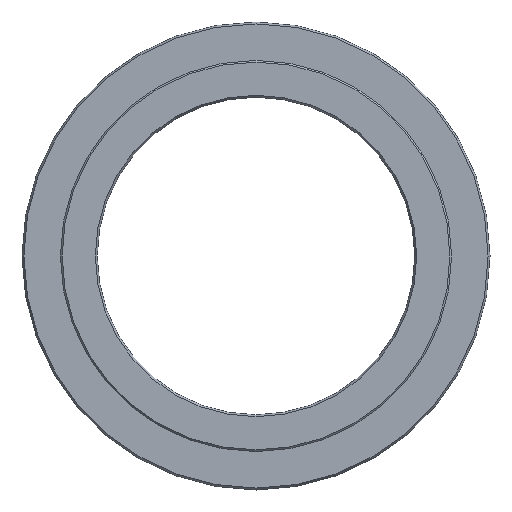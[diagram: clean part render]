
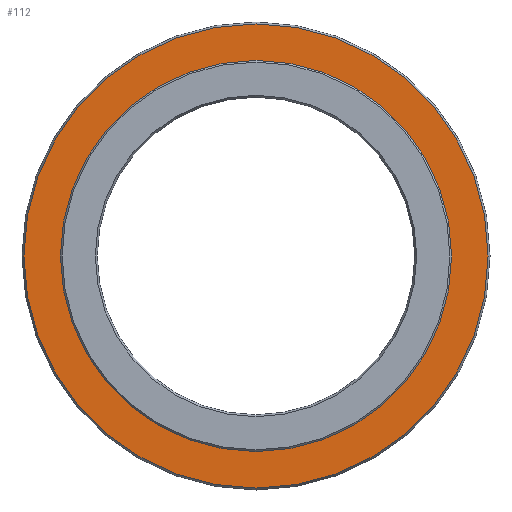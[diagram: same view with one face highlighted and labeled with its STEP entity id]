
A CAD part, left-side view. The second image highlights one B-rep face of the part: STEP entity #112.
In plain terms, the highlighted planar face has unit normal (-1, 0, 0).
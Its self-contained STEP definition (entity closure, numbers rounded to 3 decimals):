
#107=PLANE('',#279);
#112=ADVANCED_FACE('',(#131,#132),#107,.T.);
#131=FACE_BOUND('',#163,.T.);
#132=FACE_BOUND('',#164,.T.);
#163=EDGE_LOOP('',(#195));
#164=EDGE_LOOP('',(#196));
#195=ORIENTED_EDGE('',*,*,#243,.T.);
#196=ORIENTED_EDGE('',*,*,#244,.T.);
#227=VERTEX_POINT('',#379);
#228=VERTEX_POINT('',#381);
#243=EDGE_CURVE('',#227,#227,#259,.T.);
#244=EDGE_CURVE('',#228,#228,#260,.T.);
#259=CIRCLE('',#277,69.423);
#260=CIRCLE('',#278,58.5);
#277=AXIS2_PLACEMENT_3D('',#378,#314,#315);
#278=AXIS2_PLACEMENT_3D('',#380,#316,#317);
#279=AXIS2_PLACEMENT_3D('',#382,#318,#319);
#314=DIRECTION('',(-1.,0.,0.));
#315=DIRECTION('',(0.,0.,1.));
#316=DIRECTION('',(1.,0.,0.));
#317=DIRECTION('',(0.,0.,-1.));
#318=DIRECTION('',(-1.,0.,0.));
#319=DIRECTION('',(0.,0.,1.));
#378=CARTESIAN_POINT('',(0.,0.,0.));
#379=CARTESIAN_POINT('',(0.,0.,69.423));
#380=CARTESIAN_POINT('',(0.,0.,0.));
#381=CARTESIAN_POINT('',(0.,0.,-58.5));
#382=CARTESIAN_POINT('',(0.,70.,0.));
